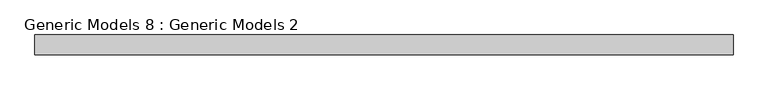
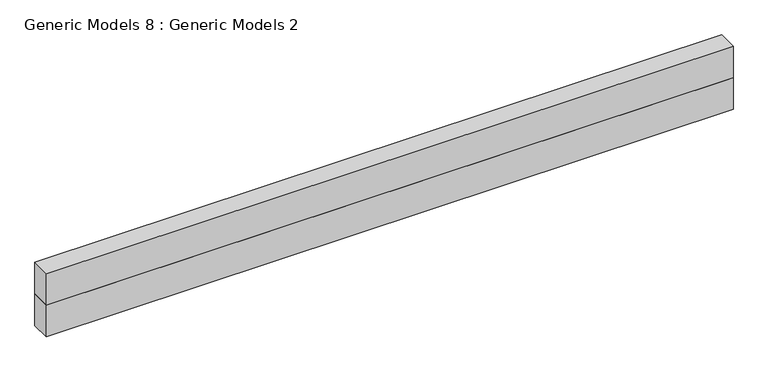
"""IFC4 building model written with IfcOpenShell, lengths in millimetres: proxy geometry, Generic Models 8 : Generic Models 2."""

from ifc_helpers import new_model, si_unit, frame, origin, place, context, project, spatial, polyline, outline, extrude, source, transform, mapped, element, save


def generic_models_8_generic_models_2_60aeb7b6(model_context):
    return source(origin(), model_context, "Body", "SweptSolid", [
        extrude(outline(polyline([(-4200.0, -4047.6885624), (-11118.5171482, -4047.6885624), (-11118.5171482, -3849.4449025), (-4200.0, -3849.4449025), (-4200.0, -4047.6885624)])), frame((0.0, 0.0, 9000.0), z_axis=(0.0, 0.0, 1.0), x_axis=(1.0, 0.0, 0.0)), (0.0, 0.0, 1.0), 336.4),
        extrude(outline(polyline([(-4200.0, -4047.6885624), (-11118.5171482, -4047.6885624), (-11118.5171482, -3849.4449025), (-4200.0, -3849.4449025), (-4200.0, -4047.6885624)])), frame((0.0, 0.0, 9336.4), z_axis=(0.0, 0.0, 1.0), x_axis=(1.0, 0.0, 0.0)), (0.0, 0.0, 1.0), 336.4),
    ])


if __name__ == "__main__":
    model = new_model("IFC4")
    model_context = context("Model", 3, world=origin())
    ifc_project = project(units=[si_unit("LENGTHUNIT", "METRE", prefix="MILLI")], contexts=[model_context])
    site = spatial("IfcSite", under=ifc_project)
    building = spatial("IfcBuilding", under=site)
    placement = place(None, origin())
    generic_models_8_generic_models_2_shape = generic_models_8_generic_models_2_60aeb7b6(model_context)
    element("IfcBuildingElementProxy", 1, Name="Generic Models 8 : Generic Models 2", ObjectType="Generic Models 8 : Generic Models 2", at=placement, inside=building, context=model_context, shape_type="MappedRepresentation", body=[
        mapped(generic_models_8_generic_models_2_shape, transform((0.0, 0.0, 0.0), x_axis=(1.0, 0.0, 0.0), y_axis=(0.0, 1.0, 0.0), z_axis=(0.0, 0.0, 1.0))),
    ])
    save(model, "model.ifc")
